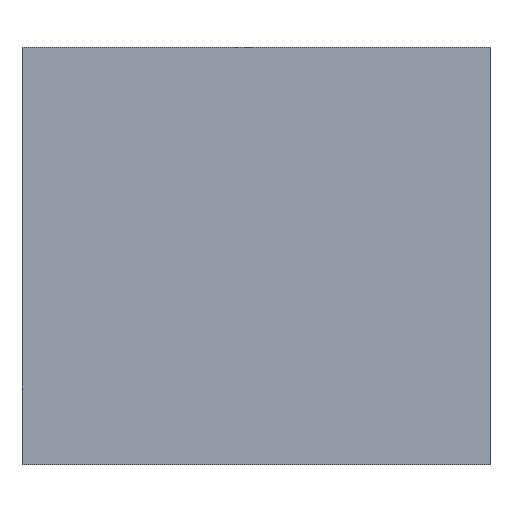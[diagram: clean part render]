
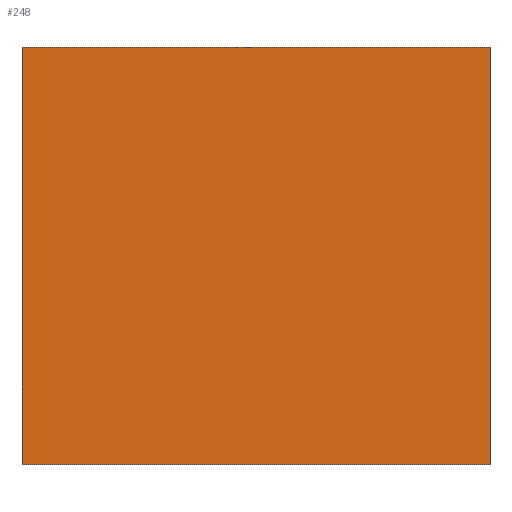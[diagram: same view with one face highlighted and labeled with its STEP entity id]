
A CAD part, top view. The second image highlights one B-rep face of the part: STEP entity #248.
In plain terms, the highlighted planar face has unit normal (0, 0, 1).
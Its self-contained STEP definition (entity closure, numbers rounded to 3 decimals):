
#24 = VERTEX_POINT('',#25);
#25 = CARTESIAN_POINT('',(-87.,-77.5,60.));
#32 = PLANE('',#33);
#33 = AXIS2_PLACEMENT_3D('',#34,#35,#36);
#34 = CARTESIAN_POINT('',(-87.,-77.5,-60.));
#35 = DIRECTION('',(1.,0.,0.));
#36 = DIRECTION('',(0.,0.,1.));
#44 = PLANE('',#45);
#45 = AXIS2_PLACEMENT_3D('',#46,#47,#48);
#46 = CARTESIAN_POINT('',(-87.,-77.5,-60.));
#47 = DIRECTION('',(0.,1.,0.));
#48 = DIRECTION('',(0.,0.,1.));
#85 = VERTEX_POINT('',#86);
#86 = CARTESIAN_POINT('',(-87.,77.5,60.));
#100 = PLANE('',#101);
#101 = AXIS2_PLACEMENT_3D('',#102,#103,#104);
#102 = CARTESIAN_POINT('',(-87.,77.5,-60.));
#103 = DIRECTION('',(0.,1.,0.));
#104 = DIRECTION('',(0.,0.,1.));
#112 = EDGE_CURVE('',#24,#85,#113,.T.);
#113 = SURFACE_CURVE('',#114,(#118,#125),.PCURVE_S1.);
#114 = LINE('',#115,#116);
#115 = CARTESIAN_POINT('',(-87.,-77.5,60.));
#116 = VECTOR('',#117,1.);
#117 = DIRECTION('',(0.,1.,0.));
#118 = PCURVE('',#32,#119);
#119 = DEFINITIONAL_REPRESENTATION('',(#120),#124);
#120 = LINE('',#121,#122);
#121 = CARTESIAN_POINT('',(120.,0.));
#122 = VECTOR('',#123,1.);
#123 = DIRECTION('',(0.,-1.));
#124 = ( GEOMETRIC_REPRESENTATION_CONTEXT(2) 
PARAMETRIC_REPRESENTATION_CONTEXT() REPRESENTATION_CONTEXT('2D SPACE',''
  ) );
#125 = PCURVE('',#126,#131);
#126 = PLANE('',#127);
#127 = AXIS2_PLACEMENT_3D('',#128,#129,#130);
#128 = CARTESIAN_POINT('',(-87.,-77.5,60.));
#129 = DIRECTION('',(0.,0.,1.));
#130 = DIRECTION('',(1.,0.,0.));
#131 = DEFINITIONAL_REPRESENTATION('',(#132),#136);
#132 = LINE('',#133,#134);
#133 = CARTESIAN_POINT('',(0.,0.));
#134 = VECTOR('',#135,1.);
#135 = DIRECTION('',(0.,1.));
#136 = ( GEOMETRIC_REPRESENTATION_CONTEXT(2) 
PARAMETRIC_REPRESENTATION_CONTEXT() REPRESENTATION_CONTEXT('2D SPACE',''
  ) );
#200 = EDGE_CURVE('',#24,#201,#203,.T.);
#201 = VERTEX_POINT('',#202);
#202 = CARTESIAN_POINT('',(87.,-77.5,60.));
#203 = SURFACE_CURVE('',#204,(#208,#215),.PCURVE_S1.);
#204 = LINE('',#205,#206);
#205 = CARTESIAN_POINT('',(-87.,-77.5,60.));
#206 = VECTOR('',#207,1.);
#207 = DIRECTION('',(1.,0.,0.));
#208 = PCURVE('',#44,#209);
#209 = DEFINITIONAL_REPRESENTATION('',(#210),#214);
#210 = LINE('',#211,#212);
#211 = CARTESIAN_POINT('',(120.,0.));
#212 = VECTOR('',#213,1.);
#213 = DIRECTION('',(0.,1.));
#214 = ( GEOMETRIC_REPRESENTATION_CONTEXT(2) 
PARAMETRIC_REPRESENTATION_CONTEXT() REPRESENTATION_CONTEXT('2D SPACE',''
  ) );
#215 = PCURVE('',#126,#216);
#216 = DEFINITIONAL_REPRESENTATION('',(#217),#221);
#217 = LINE('',#218,#219);
#218 = CARTESIAN_POINT('',(0.,0.));
#219 = VECTOR('',#220,1.);
#220 = DIRECTION('',(1.,0.));
#221 = ( GEOMETRIC_REPRESENTATION_CONTEXT(2) 
PARAMETRIC_REPRESENTATION_CONTEXT() REPRESENTATION_CONTEXT('2D SPACE',''
  ) );
#237 = PLANE('',#238);
#238 = AXIS2_PLACEMENT_3D('',#239,#240,#241);
#239 = CARTESIAN_POINT('',(87.,-77.5,-60.));
#240 = DIRECTION('',(1.,0.,0.));
#241 = DIRECTION('',(0.,0.,1.));
#248 = ADVANCED_FACE('',(#249),#126,.T.);
#249 = FACE_BOUND('',#250,.T.);
#250 = EDGE_LOOP('',(#251,#252,#253,#276));
#251 = ORIENTED_EDGE('',*,*,#112,.F.);
#252 = ORIENTED_EDGE('',*,*,#200,.T.);
#253 = ORIENTED_EDGE('',*,*,#254,.T.);
#254 = EDGE_CURVE('',#201,#255,#257,.T.);
#255 = VERTEX_POINT('',#256);
#256 = CARTESIAN_POINT('',(87.,77.5,60.));
#257 = SURFACE_CURVE('',#258,(#262,#269),.PCURVE_S1.);
#258 = LINE('',#259,#260);
#259 = CARTESIAN_POINT('',(87.,-77.5,60.));
#260 = VECTOR('',#261,1.);
#261 = DIRECTION('',(0.,1.,0.));
#262 = PCURVE('',#126,#263);
#263 = DEFINITIONAL_REPRESENTATION('',(#264),#268);
#264 = LINE('',#265,#266);
#265 = CARTESIAN_POINT('',(174.,0.));
#266 = VECTOR('',#267,1.);
#267 = DIRECTION('',(0.,1.));
#268 = ( GEOMETRIC_REPRESENTATION_CONTEXT(2) 
PARAMETRIC_REPRESENTATION_CONTEXT() REPRESENTATION_CONTEXT('2D SPACE',''
  ) );
#269 = PCURVE('',#237,#270);
#270 = DEFINITIONAL_REPRESENTATION('',(#271),#275);
#271 = LINE('',#272,#273);
#272 = CARTESIAN_POINT('',(120.,0.));
#273 = VECTOR('',#274,1.);
#274 = DIRECTION('',(0.,-1.));
#275 = ( GEOMETRIC_REPRESENTATION_CONTEXT(2) 
PARAMETRIC_REPRESENTATION_CONTEXT() REPRESENTATION_CONTEXT('2D SPACE',''
  ) );
#276 = ORIENTED_EDGE('',*,*,#277,.F.);
#277 = EDGE_CURVE('',#85,#255,#278,.T.);
#278 = SURFACE_CURVE('',#279,(#283,#290),.PCURVE_S1.);
#279 = LINE('',#280,#281);
#280 = CARTESIAN_POINT('',(-87.,77.5,60.));
#281 = VECTOR('',#282,1.);
#282 = DIRECTION('',(1.,0.,0.));
#283 = PCURVE('',#126,#284);
#284 = DEFINITIONAL_REPRESENTATION('',(#285),#289);
#285 = LINE('',#286,#287);
#286 = CARTESIAN_POINT('',(0.,155.));
#287 = VECTOR('',#288,1.);
#288 = DIRECTION('',(1.,0.));
#289 = ( GEOMETRIC_REPRESENTATION_CONTEXT(2) 
PARAMETRIC_REPRESENTATION_CONTEXT() REPRESENTATION_CONTEXT('2D SPACE',''
  ) );
#290 = PCURVE('',#100,#291);
#291 = DEFINITIONAL_REPRESENTATION('',(#292),#296);
#292 = LINE('',#293,#294);
#293 = CARTESIAN_POINT('',(120.,0.));
#294 = VECTOR('',#295,1.);
#295 = DIRECTION('',(0.,1.));
#296 = ( GEOMETRIC_REPRESENTATION_CONTEXT(2) 
PARAMETRIC_REPRESENTATION_CONTEXT() REPRESENTATION_CONTEXT('2D SPACE',''
  ) );
